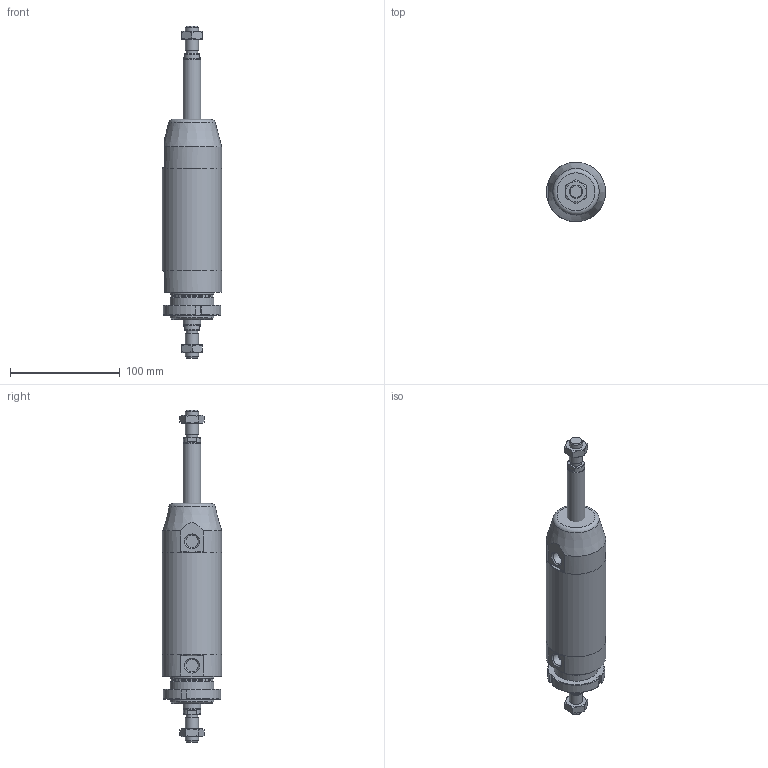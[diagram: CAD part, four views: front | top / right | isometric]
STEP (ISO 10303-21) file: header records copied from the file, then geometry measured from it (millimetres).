
FILE_DESCRIPTION(/* description */ (''),/* implementation_level */ '2;1');
FILE_NAME(/* name */ 'I:\Area Tecnica\Documenti\A-Manieri\_Inventor\12X\12X#T_###_####_#_#\12XCT_050_0050_#_#.stp',/* time_stamp */ '2015-05-13T08:45:59+02:00',/* author */ ('maniean1'),/* organization */ ('Pneumax S.p.A.'),/* preprocessor_version */ 'ST-DEVELOPER v15.2',/* originating_system */ 'Autodesk Inventor 2014',/* authorisation */ '');
FILE_SCHEMA (('AUTOMOTIVE_DESIGN { 1 0 10303 214 3 1 1 }'));
Length unit declared in the file: millimetre
Products named in the file (7): C1250_619-0050; 12X50_604; SP12X50_0050; 12X_50_11; 12X50_613; G12X_050_05; 12XCT_050_0050_#_#
Bounding box: 54 x 54 x 302 mm (x, y, z)
Volume: 320199.6 mm3; surface area: 85764.1 mm2
Topology: 7 solids, 7 shells, 107 faces, 238 edges, 152 vertices
Faces by surface type: plane 54, cylinder 26, cone 26, torus 1
Full cylindrical faces by diameter (mm): 10.2 x2, 11.4 x2, 12 x4, 14 x2, 15.6 x2, 16 x2, 38.2 x1, 40 x3, 50 x2, 54 x3
Entity records: 2546 total; most frequent: CARTESIAN_POINT 474, DIRECTION 433, ORIENTED_EDGE 338, AXIS2_PLACEMENT_3D 187, EDGE_CURVE 169, EDGE_LOOP 150, VERTEX_POINT 129, ADVANCED_FACE 96
